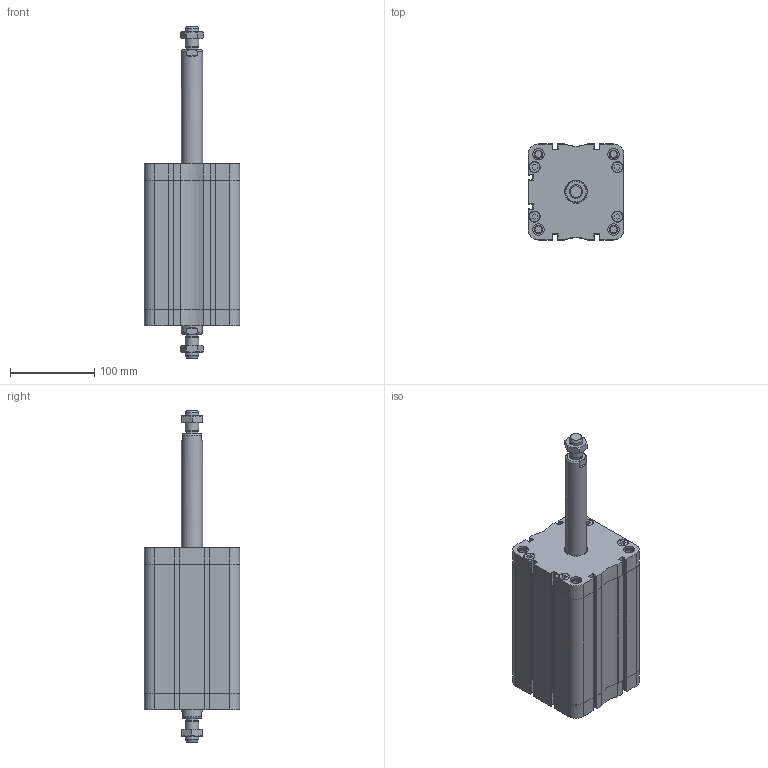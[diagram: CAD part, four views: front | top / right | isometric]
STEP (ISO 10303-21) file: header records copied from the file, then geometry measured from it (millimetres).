
FILE_DESCRIPTION(/* description */ ('Unknown'),/* implementation_level */ '2;1');
FILE_NAME(/* name */ 'ZBF 100_125',/* time_stamp */ '2024-11-20T09:15:54+01:00',/* author */ ('Unknown'),/* organization */ ('Unknown'),/* preprocessor_version */ 'ST-DEVELOPER v16.7',/* originating_system */ 'Solid Edge',/* authorisation */ 'Unknown');
FILE_SCHEMA (('AUTOMOTIVE_DESIGN {1 0 10303 214 3 1 1}'));
Length unit declared in the file: millimetre
Products named in the file (5): ZBF 100_125; Profilrohr; Kolbenstange; Mutter; Kit
Assembly tree (7 placements, depth 2):
  ZBF 100_125
    Profilrohr
    Kolbenstange  x2
    Mutter  x2
    Kit  x2
Bounding box: 113.5 x 113.5 x 393 mm (x, y, z)
Volume: 1527161.4 mm3; surface area: 290482.8 mm2
Topology: 7 solids, 7 shells, 835 faces, 2207 edges, 1452 vertices
Faces by surface type: plane 378, cylinder 233, bspline 114, cone 82, torus 28
Full cylindrical faces by diameter (mm): 8.376 x8, 8.566 x2, 13.1 x8, 13.5 x8, 14 x2, 14.376 x2, 16 x2, 25 x2, 25.6 x2, 26.9 x2, 28 x2, 29.8 x2, 30 x2, 100 x3
Entity records: 17553 total; most frequent: CARTESIAN_POINT 3669, ORIENTED_EDGE 2398, DIRECTION 2244, EDGE_CURVE 1199, VERTEX_POINT 819, AXIS2_PLACEMENT_3D 783, LINE 678, VECTOR 678
